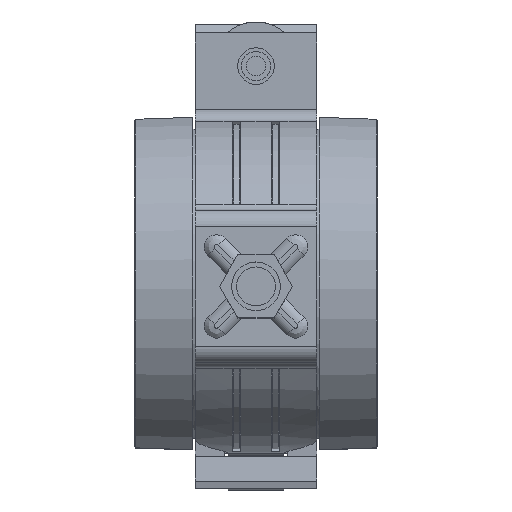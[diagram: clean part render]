
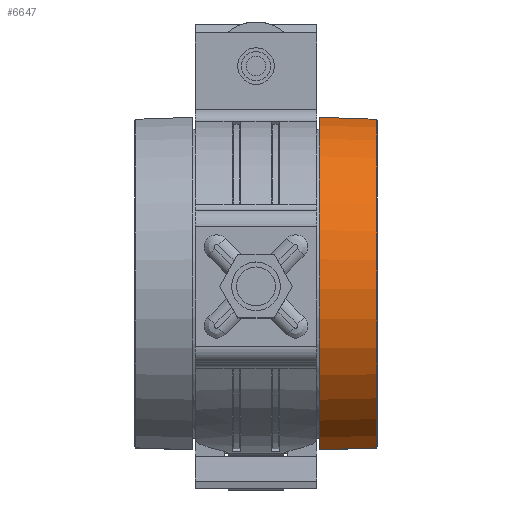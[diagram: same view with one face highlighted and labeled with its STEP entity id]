
A CAD part, top view. The second image highlights one B-rep face of the part: STEP entity #6647.
In plain terms, the highlighted conical face has half-angle 2 degrees and reference radius 35.293 mm.
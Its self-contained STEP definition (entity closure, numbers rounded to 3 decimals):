
#135=CONICAL_SURFACE('',#7257,35.293,2.);
#564=CIRCLE('',#7256,35.086);
#565=CIRCLE('',#7258,35.5);
#941=FACE_OUTER_BOUND('',#1297,.T.);
#1297=EDGE_LOOP('',(#5139,#5140,#5141,#5142));
#1760=LINE('',#10844,#2267);
#1761=LINE('',#10847,#2268);
#2267=VECTOR('',#8814,11.863);
#2268=VECTOR('',#8817,11.863);
#2848=VERTEX_POINT('',#10837);
#2849=VERTEX_POINT('',#10839);
#2850=VERTEX_POINT('',#10843);
#2851=VERTEX_POINT('',#10845);
#3665=EDGE_CURVE('',#2848,#2849,#564,.T.);
#3667=EDGE_CURVE('',#2850,#2848,#1760,.T.);
#3668=EDGE_CURVE('',#2850,#2851,#565,.T.);
#3669=EDGE_CURVE('',#2851,#2849,#1761,.T.);
#5139=ORIENTED_EDGE('',*,*,#3667,.F.);
#5140=ORIENTED_EDGE('',*,*,#3668,.T.);
#5141=ORIENTED_EDGE('',*,*,#3669,.T.);
#5142=ORIENTED_EDGE('',*,*,#3665,.F.);
#6647=ADVANCED_FACE('',(#941),#135,.T.);
#7256=AXIS2_PLACEMENT_3D('',#10840,#8809,#8810);
#7257=AXIS2_PLACEMENT_3D('',#10842,#8812,#8813);
#7258=AXIS2_PLACEMENT_3D('',#10846,#8815,#8816);
#8809=DIRECTION('center_axis',(1.,0.,0.));
#8810=DIRECTION('ref_axis',(0.,0.982,0.191));
#8812=DIRECTION('center_axis',(-1.,0.,0.));
#8813=DIRECTION('ref_axis',(0.,0.982,0.191));
#8814=DIRECTION('',(0.999,-0.034,-0.007));
#8815=DIRECTION('center_axis',(1.,0.,0.));
#8816=DIRECTION('ref_axis',(0.,0.982,0.191));
#8817=DIRECTION('',(0.999,0.033,-0.011));
#10837=CARTESIAN_POINT('',(24.856,34.441,6.695));
#10839=CARTESIAN_POINT('',(24.856,-33.174,11.423));
#10840=CARTESIAN_POINT('Origin',(24.856,0.,
0.));
#10842=CARTESIAN_POINT('Origin',(18.928,0.,0.));
#10843=CARTESIAN_POINT('',(13.,34.848,6.774));
#10844=CARTESIAN_POINT('',(13.,34.848,6.774));
#10845=CARTESIAN_POINT('',(13.,-33.566,11.558));
#10846=CARTESIAN_POINT('Origin',(13.,0.,
0.));
#10847=CARTESIAN_POINT('',(13.,-33.566,11.558));
